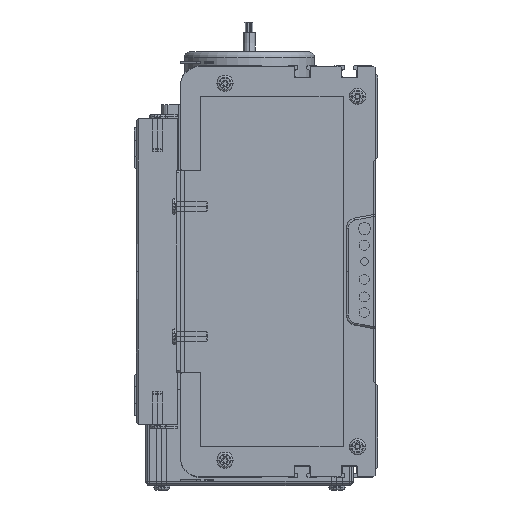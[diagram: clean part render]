
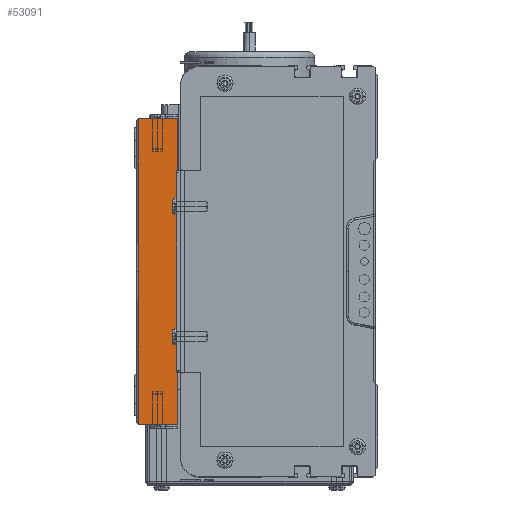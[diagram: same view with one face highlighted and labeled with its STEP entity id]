
A CAD part, left-side view. The second image highlights one B-rep face of the part: STEP entity #53091.
In plain terms, the highlighted planar face has unit normal (-1, 0, 0).
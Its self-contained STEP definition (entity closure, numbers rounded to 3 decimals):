
#33973 = CARTESIAN_POINT ( 'NONE',  ( 0., 0., 0. ) ) ;
#34021 = LINE ( 'NONE', #33973, #34188 ) ;
#34187 = DIRECTION ( 'NONE',  ( 0., 0., 1. ) ) ;
#34188 = VECTOR ( 'NONE', #34187, 1000. ) ;
#34201 = CARTESIAN_POINT ( 'NONE',  ( 0., 0., -75. ) ) ;
#34740 = CARTESIAN_POINT ( 'NONE',  ( 0., 0., 75. ) ) ;
#36599 = CARTESIAN_POINT ( 'NONE',  ( 0., 19., 75. ) ) ;
#36666 = DIRECTION ( 'NONE',  ( 0., -1., 0. ) ) ;
#36667 = VECTOR ( 'NONE', #36666, 1000. ) ;
#36669 = CARTESIAN_POINT ( 'NONE',  ( 0., 20., 75. ) ) ;
#36679 = LINE ( 'NONE', #36669, #36667 ) ;
#36756 = DIRECTION ( 'NONE',  ( 0., -1., 0. ) ) ;
#36757 = VECTOR ( 'NONE', #36756, 1000. ) ;
#36778 = CARTESIAN_POINT ( 'NONE',  ( 0., 20., -75. ) ) ;
#36779 = LINE ( 'NONE', #36778, #36757 ) ;
#36812 = DIRECTION ( 'NONE',  ( 0., 0., -1. ) ) ;
#36813 = VECTOR ( 'NONE', #36812, 1000. ) ;
#36814 = CARTESIAN_POINT ( 'NONE',  ( 0., 19., 0. ) ) ;
#36815 = LINE ( 'NONE', #36814, #36813 ) ;
#36832 = CARTESIAN_POINT ( 'NONE',  ( 0., 19., -75. ) ) ;
#36870 = AXIS2_PLACEMENT_3D ( 'NONE', #36967, #36900, #36964 ) ;
#36900 = DIRECTION ( 'NONE',  ( 1., 0., 0. ) ) ;
#36938 = CARTESIAN_POINT ( 'NONE',  ( 0., 19., 0. ) ) ;
#36939 = LINE ( 'NONE', #36938, #36976 ) ;
#36964 = DIRECTION ( 'NONE',  ( 0., 0., -1. ) ) ;
#36967 = CARTESIAN_POINT ( 'NONE',  ( 0., 20., 0. ) ) ;
#36968 = CARTESIAN_POINT ( 'NONE',  ( 0., 19., 0. ) ) ;
#36969 = FACE_OUTER_BOUND ( 'NONE', #53127, .T. ) ;
#36970 = PLANE ( 'NONE',  #36870 ) ;
#36975 = DIRECTION ( 'NONE',  ( 0., 0., -1. ) ) ;
#36976 = VECTOR ( 'NONE', #36975, 1000. ) ;
#52436 = EDGE_CURVE ( 'NONE', #52440, #52535, #34021, .T. ) ;
#52440 = VERTEX_POINT ( 'NONE', #34201 ) ;
#52535 = VERTEX_POINT ( 'NONE', #34740 ) ;
#52728 = ORIENTED_EDGE ( 'NONE', *, *, #52979, .T. ) ;
#52889 = ORIENTED_EDGE ( 'NONE', *, *, #52436, .T. ) ;
#52951 = EDGE_CURVE ( 'NONE', #53023, #52535, #36679, .T. ) ;
#52966 = VERTEX_POINT ( 'NONE', #36832 ) ;
#52968 = EDGE_CURVE ( 'NONE', #53023, #53094, #36815, .T. ) ;
#52979 = EDGE_CURVE ( 'NONE', #52966, #52440, #36779, .T. ) ;
#53023 = VERTEX_POINT ( 'NONE', #36599 ) ;
#53084 = EDGE_CURVE ( 'NONE', #53094, #52966, #36939, .T. ) ;
#53091 = ADVANCED_FACE ( 'NONE', ( #36969 ), #36970, .F. ) ;
#53093 = ORIENTED_EDGE ( 'NONE', *, *, #52951, .F. ) ;
#53094 = VERTEX_POINT ( 'NONE', #36968 ) ;
#53096 = ORIENTED_EDGE ( 'NONE', *, *, #52968, .T. ) ;
#53124 = ORIENTED_EDGE ( 'NONE', *, *, #53084, .T. ) ;
#53127 = EDGE_LOOP ( 'NONE', ( #53093, #53096, #53124, #52728, #52889 ) ) ;
